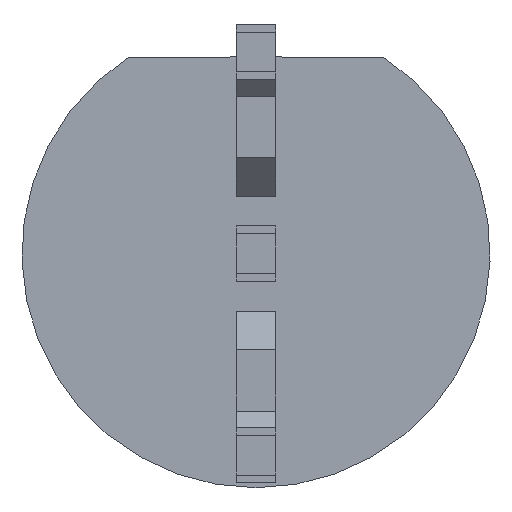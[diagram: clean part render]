
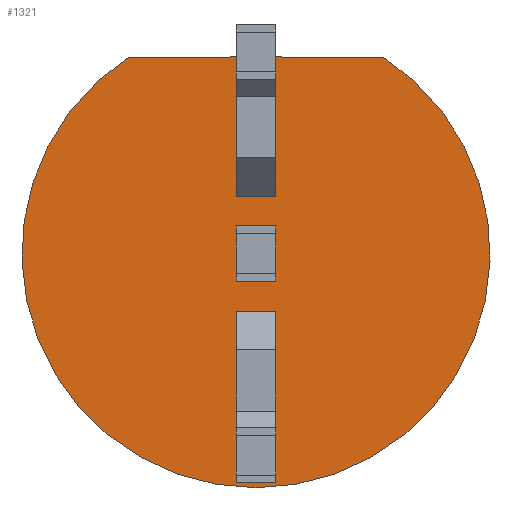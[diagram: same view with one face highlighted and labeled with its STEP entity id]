
A CAD part, front view. The second image highlights one B-rep face of the part: STEP entity #1321.
In plain terms, the highlighted planar face has unit normal (0, -1, 0).
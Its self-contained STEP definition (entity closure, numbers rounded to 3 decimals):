
#67 = LINE ( 'NONE', #235, #1261 ) ;
#98 = CARTESIAN_POINT ( 'NONE',  ( -2.5, 0., 0. ) ) ;
#101 = DIRECTION ( 'NONE',  ( 0., 0., -1. ) ) ;
#108 = DIRECTION ( 'NONE',  ( -1., 0., 0. ) ) ;
#119 = AXIS2_PLACEMENT_3D ( 'NONE', #245, #2144, #2084 ) ;
#133 = CIRCLE ( 'NONE', #380, 2.95 ) ;
#150 = CARTESIAN_POINT ( 'NONE',  ( -1.609, 0., 2.472 ) ) ;
#187 = ORIENTED_EDGE ( 'NONE', *, *, #578, .T. ) ;
#193 = EDGE_LOOP ( 'NONE', ( #448, #1462, #187, #1443, #1829, #1291 ) ) ;
#200 = CARTESIAN_POINT ( 'NONE',  ( 0.25, 0., -1.225 ) ) ;
#209 = VECTOR ( 'NONE', #2099, 1000. ) ;
#220 = CARTESIAN_POINT ( 'NONE',  ( -0.371, 0., 2.472 ) ) ;
#235 = CARTESIAN_POINT ( 'NONE',  ( 0.25, 0., 1.225 ) ) ;
#238 = VERTEX_POINT ( 'NONE', #1510 ) ;
#245 = CARTESIAN_POINT ( 'NONE',  ( 0., 0., 0. ) ) ;
#252 = DIRECTION ( 'NONE',  ( 0., 0., 1. ) ) ;
#272 = VERTEX_POINT ( 'NONE', #303 ) ;
#283 = VECTOR ( 'NONE', #562, 1000. ) ;
#297 = CARTESIAN_POINT ( 'NONE',  ( 0.25, 0., 0.725 ) ) ;
#299 = CIRCLE ( 'NONE', #119, 2.95 ) ;
#303 = CARTESIAN_POINT ( 'NONE',  ( 0.25, 0., -0.25 ) ) ;
#304 = ORIENTED_EDGE ( 'NONE', *, *, #942, .T. ) ;
#315 = VECTOR ( 'NONE', #633, 1000. ) ;
#355 = EDGE_CURVE ( 'NONE', #1387, #272, #1891, .T. ) ;
#380 = AXIS2_PLACEMENT_3D ( 'NONE', #1484, #871, #1624 ) ;
#389 = ORIENTED_EDGE ( 'NONE', *, *, #1946, .F. ) ;
#392 = LINE ( 'NONE', #1523, #315 ) ;
#407 = VERTEX_POINT ( 'NONE', #1932 ) ;
#412 = CARTESIAN_POINT ( 'NONE',  ( 1.609, 0., 2.472 ) ) ;
#414 = EDGE_CURVE ( 'NONE', #407, #1387, #587, .T. ) ;
#423 = CARTESIAN_POINT ( 'NONE',  ( -0.25, 0., -0.25 ) ) ;
#448 = ORIENTED_EDGE ( 'NONE', *, *, #765, .T. ) ;
#452 = CARTESIAN_POINT ( 'NONE',  ( -0.25, 0., 1.225 ) ) ;
#477 = EDGE_LOOP ( 'NONE', ( #1775, #1208, #782, #389 ) ) ;
#522 = DIRECTION ( 'NONE',  ( 0., -1., 0. ) ) ;
#530 = EDGE_CURVE ( 'NONE', #534, #1682, #1303, .T. ) ;
#534 = VERTEX_POINT ( 'NONE', #1806 ) ;
#550 = EDGE_LOOP ( 'NONE', ( #1455, #792, #1224, #1905 ) ) ;
#562 = DIRECTION ( 'NONE',  ( 1., 0., 0. ) ) ;
#566 = DIRECTION ( 'NONE',  ( -1., 0., 0. ) ) ;
#578 = EDGE_CURVE ( 'NONE', #1682, #1044, #667, .T. ) ;
#587 = LINE ( 'NONE', #1104, #1442 ) ;
#600 = EDGE_CURVE ( 'NONE', #1702, #1038, #1536, .T. ) ;
#615 = VERTEX_POINT ( 'NONE', #1334 ) ;
#616 = VECTOR ( 'NONE', #1838, 1000. ) ;
#623 = EDGE_CURVE ( 'NONE', #238, #1038, #857, .T. ) ;
#633 = DIRECTION ( 'NONE',  ( -1., 0., 0. ) ) ;
#650 = CARTESIAN_POINT ( 'NONE',  ( -0.25, 0., -1.225 ) ) ;
#666 = VERTEX_POINT ( 'NONE', #200 ) ;
#667 = LINE ( 'NONE', #985, #1895 ) ;
#669 = CARTESIAN_POINT ( 'NONE',  ( 0.25, 0., -1.225 ) ) ;
#677 = VECTOR ( 'NONE', #1145, 1000. ) ;
#684 = VERTEX_POINT ( 'NONE', #1272 ) ;
#698 = FACE_BOUND ( 'NONE', #477, .T. ) ;
#725 = CARTESIAN_POINT ( 'NONE',  ( -0.25, 0., -0.25 ) ) ;
#763 = VERTEX_POINT ( 'NONE', #1249 ) ;
#765 = EDGE_CURVE ( 'NONE', #1810, #534, #2151, .T. ) ;
#782 = ORIENTED_EDGE ( 'NONE', *, *, #1923, .T. ) ;
#792 = ORIENTED_EDGE ( 'NONE', *, *, #355, .F. ) ;
#793 = EDGE_CURVE ( 'NONE', #2241, #684, #67, .T. ) ;
#794 = VECTOR ( 'NONE', #1505, 1000. ) ;
#811 = EDGE_CURVE ( 'NONE', #272, #763, #1842, .T. ) ;
#857 = LINE ( 'NONE', #650, #1193 ) ;
#871 = DIRECTION ( 'NONE',  ( 0., -1., 0. ) ) ;
#894 = CARTESIAN_POINT ( 'NONE',  ( -0.25, 0., 0.25 ) ) ;
#910 = LINE ( 'NONE', #669, #616 ) ;
#918 = AXIS2_PLACEMENT_3D ( 'NONE', #2169, #1148, #101 ) ;
#942 = EDGE_CURVE ( 'NONE', #666, #238, #1502, .T. ) ;
#949 = FACE_OUTER_BOUND ( 'NONE', #193, .T. ) ;
#957 = DIRECTION ( 'NONE',  ( -1., 0., 0. ) ) ;
#966 = LINE ( 'NONE', #1416, #1808 ) ;
#985 = CARTESIAN_POINT ( 'NONE',  ( -1.609, 0., 2.472 ) ) ;
#1038 = VERTEX_POINT ( 'NONE', #1964 ) ;
#1044 = VERTEX_POINT ( 'NONE', #150 ) ;
#1104 = CARTESIAN_POINT ( 'NONE',  ( -0.25, 0., 0.25 ) ) ;
#1109 = CARTESIAN_POINT ( 'NONE',  ( 0., 0., -2.95 ) ) ;
#1122 = AXIS2_PLACEMENT_3D ( 'NONE', #1950, #522, #2123 ) ;
#1123 = EDGE_CURVE ( 'NONE', #1300, #1810, #392, .T. ) ;
#1141 = EDGE_CURVE ( 'NONE', #666, #1702, #910, .T. ) ;
#1145 = DIRECTION ( 'NONE',  ( -1., 0., 0. ) ) ;
#1148 = DIRECTION ( 'NONE',  ( 0., -1., 0. ) ) ;
#1193 = VECTOR ( 'NONE', #1681, 1000. ) ;
#1208 = ORIENTED_EDGE ( 'NONE', *, *, #1243, .T. ) ;
#1217 = VECTOR ( 'NONE', #1324, 1000. ) ;
#1222 = FACE_BOUND ( 'NONE', #550, .T. ) ;
#1224 = ORIENTED_EDGE ( 'NONE', *, *, #414, .F. ) ;
#1225 = EDGE_CURVE ( 'NONE', #763, #407, #2183, .T. ) ;
#1243 = EDGE_CURVE ( 'NONE', #2241, #1814, #966, .T. ) ;
#1249 = CARTESIAN_POINT ( 'NONE',  ( 0.25, 0., 0.25 ) ) ;
#1254 = AXIS2_PLACEMENT_3D ( 'NONE', #98, #1752, #252 ) ;
#1261 = VECTOR ( 'NONE', #1378, 1000. ) ;
#1263 = DIRECTION ( 'NONE',  ( 0., 0., -1. ) ) ;
#1272 = CARTESIAN_POINT ( 'NONE',  ( 0.25, 0., 1.225 ) ) ;
#1291 = ORIENTED_EDGE ( 'NONE', *, *, #1123, .T. ) ;
#1300 = VERTEX_POINT ( 'NONE', #412 ) ;
#1303 = CIRCLE ( 'NONE', #918, 2.5 ) ;
#1319 = CARTESIAN_POINT ( 'NONE',  ( 0.25, 0., -0.725 ) ) ;
#1321 = ADVANCED_FACE ( 'NONE', ( #1551, #1222, #949, #698 ), #1920, .F. ) ;
#1324 = DIRECTION ( 'NONE',  ( -1., 0., 0. ) ) ;
#1333 = EDGE_LOOP ( 'NONE', ( #2063, #1781, #304, #2026 ) ) ;
#1334 = CARTESIAN_POINT ( 'NONE',  ( -0.25, 0., 1.225 ) ) ;
#1378 = DIRECTION ( 'NONE',  ( 0., 0., 1. ) ) ;
#1387 = VERTEX_POINT ( 'NONE', #423 ) ;
#1409 = EDGE_CURVE ( 'NONE', #1742, #1300, #299, .T. ) ;
#1416 = CARTESIAN_POINT ( 'NONE',  ( 0.25, 0., 0.725 ) ) ;
#1442 = VECTOR ( 'NONE', #1263, 1000. ) ;
#1443 = ORIENTED_EDGE ( 'NONE', *, *, #1882, .T. ) ;
#1455 = ORIENTED_EDGE ( 'NONE', *, *, #811, .F. ) ;
#1462 = ORIENTED_EDGE ( 'NONE', *, *, #530, .T. ) ;
#1484 = CARTESIAN_POINT ( 'NONE',  ( 0., 0., 0. ) ) ;
#1502 = LINE ( 'NONE', #2013, #794 ) ;
#1505 = DIRECTION ( 'NONE',  ( -1., 0., 0. ) ) ;
#1510 = CARTESIAN_POINT ( 'NONE',  ( -0.25, 0., -1.225 ) ) ;
#1523 = CARTESIAN_POINT ( 'NONE',  ( -1.609, 0., 2.472 ) ) ;
#1536 = LINE ( 'NONE', #1319, #1217 ) ;
#1551 = FACE_BOUND ( 'NONE', #1333, .T. ) ;
#1566 = CARTESIAN_POINT ( 'NONE',  ( 0.25, 0., 0.25 ) ) ;
#1624 = DIRECTION ( 'NONE',  ( 0., 0., -1. ) ) ;
#1681 = DIRECTION ( 'NONE',  ( 0., 0., 1. ) ) ;
#1682 = VERTEX_POINT ( 'NONE', #220 ) ;
#1702 = VERTEX_POINT ( 'NONE', #2089 ) ;
#1727 = CARTESIAN_POINT ( 'NONE',  ( 0.25, 0., 1.225 ) ) ;
#1742 = VERTEX_POINT ( 'NONE', #1109 ) ;
#1752 = DIRECTION ( 'NONE',  ( 0., 1., 0. ) ) ;
#1775 = ORIENTED_EDGE ( 'NONE', *, *, #793, .F. ) ;
#1781 = ORIENTED_EDGE ( 'NONE', *, *, #1141, .F. ) ;
#1806 = CARTESIAN_POINT ( 'NONE',  ( 0., 0., 2.5 ) ) ;
#1808 = VECTOR ( 'NONE', #566, 1000. ) ;
#1810 = VERTEX_POINT ( 'NONE', #1957 ) ;
#1814 = VERTEX_POINT ( 'NONE', #2122 ) ;
#1829 = ORIENTED_EDGE ( 'NONE', *, *, #1409, .T. ) ;
#1838 = DIRECTION ( 'NONE',  ( 0., 0., 1. ) ) ;
#1842 = LINE ( 'NONE', #1566, #209 ) ;
#1851 = LINE ( 'NONE', #1727, #677 ) ;
#1882 = EDGE_CURVE ( 'NONE', #1044, #1742, #133, .T. ) ;
#1891 = LINE ( 'NONE', #725, #283 ) ;
#1895 = VECTOR ( 'NONE', #108, 1000. ) ;
#1905 = ORIENTED_EDGE ( 'NONE', *, *, #1225, .F. ) ;
#1920 = PLANE ( 'NONE',  #1254 ) ;
#1923 = EDGE_CURVE ( 'NONE', #1814, #615, #1965, .T. ) ;
#1932 = CARTESIAN_POINT ( 'NONE',  ( -0.25, 0., 0.25 ) ) ;
#1946 = EDGE_CURVE ( 'NONE', #684, #615, #1851, .T. ) ;
#1950 = CARTESIAN_POINT ( 'NONE',  ( 0., 0., 0. ) ) ;
#1957 = CARTESIAN_POINT ( 'NONE',  ( 0.371, 0., 2.472 ) ) ;
#1964 = CARTESIAN_POINT ( 'NONE',  ( -0.25, 0., -0.725 ) ) ;
#1965 = LINE ( 'NONE', #452, #2071 ) ;
#1982 = DIRECTION ( 'NONE',  ( 0., 0., 1. ) ) ;
#2013 = CARTESIAN_POINT ( 'NONE',  ( 0.25, 0., -1.225 ) ) ;
#2026 = ORIENTED_EDGE ( 'NONE', *, *, #623, .T. ) ;
#2063 = ORIENTED_EDGE ( 'NONE', *, *, #600, .F. ) ;
#2071 = VECTOR ( 'NONE', #1982, 1000. ) ;
#2084 = DIRECTION ( 'NONE',  ( 0., 0., -1. ) ) ;
#2089 = CARTESIAN_POINT ( 'NONE',  ( 0.25, 0., -0.725 ) ) ;
#2099 = DIRECTION ( 'NONE',  ( 0., 0., 1. ) ) ;
#2122 = CARTESIAN_POINT ( 'NONE',  ( -0.25, 0., 0.725 ) ) ;
#2123 = DIRECTION ( 'NONE',  ( 0., 0., -1. ) ) ;
#2144 = DIRECTION ( 'NONE',  ( 0., -1., 0. ) ) ;
#2151 = CIRCLE ( 'NONE', #1122, 2.5 ) ;
#2169 = CARTESIAN_POINT ( 'NONE',  ( 0., 0., 0. ) ) ;
#2171 = VECTOR ( 'NONE', #957, 1000. ) ;
#2183 = LINE ( 'NONE', #894, #2171 ) ;
#2241 = VERTEX_POINT ( 'NONE', #297 ) ;
